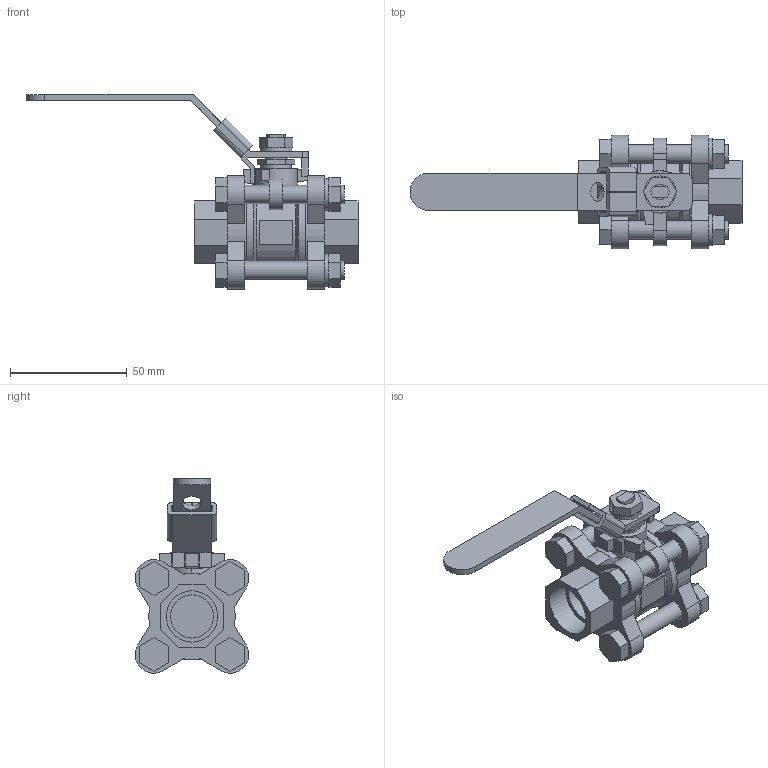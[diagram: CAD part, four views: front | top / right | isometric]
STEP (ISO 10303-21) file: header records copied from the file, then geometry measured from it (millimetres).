
FILE_DESCRIPTION((' '),'2;1');
FILE_NAME('N:\Technical Support\Private\Jomar Valve CAD\Ball Valves\CS and SS\1000N-4B\Socket Weld\.5 S-CS[SS]-1000N-4B (500-503 [500-343])FusionCopy.stp.step','2017-05-25T16:34:50',(' '),(' '),' ','ACIS',' ');
FILE_SCHEMA(('CONFIG_CONTROL_DESIGN'));
Length unit declared in the file: inch
Products named in the file (22): N:\Technical Support\Private\Jomar Valve CAD\Ball Valves\CS and SS\1000N-4B\Socket Weld\.5 S-CS[SS]-1000N-4B (500-503 [500-343])FusionCopy.stp.step; Body1; Body2; Body3; Body4; Body5; Body6; Body7; Body8; Body9; Body10; Body11; Body12; Body13; Body14; Body15; Body16; Body17; Body18; Body19; Body20; Body21
Assembly tree (21 placements, depth 2):
  N:\Technical Support\Private\Jomar Valve CAD\Ball Valves\CS and SS\1000N-4B\Socket Weld\.5 S-CS[SS]-1000N-4B (500-503 [500-343])FusionCopy.stp.step
    Body1
    Body2
    Body3
    Body4
    Body5
    Body6
    Body7
    Body8
    Body9
    Body10
    Body11
    Body12
    Body13
    Body14
    Body15
    Body16
    Body17
    Body18
    Body19
    Body20
    Body21
Bounding box: 142.15 x 48.62 x 83.25 mm (x, y, z)
Volume: 80686.5 mm3; surface area: 41784.7 mm2
Topology: 21 solids, 21 shells, 309 faces, 775 edges, 505 vertices
Faces by surface type: plane 161, bspline 96, cylinder 51, cone 1
Full cylindrical faces by diameter (mm): 6.68 x3, 7.798 x2, 8.128 x1, 8.255 x3, 8.89 x3, 9.017 x5, 13.03 x1, 13.665 x3, 18.161 x1, 18.491 x1, 21.971 x1, 36.957 x3
Entity records: 12305 total; most frequent: CARTESIAN_POINT 2175, ORIENTED_EDGE 1406, DIRECTION 1386, EDGE_CURVE 703, VECTOR 510, LINE 510, VERTEX_POINT 483, AXIS2_PLACEMENT_3D 438
